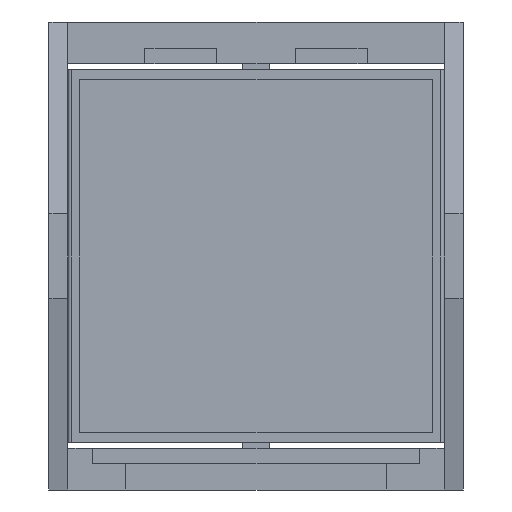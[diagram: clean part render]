
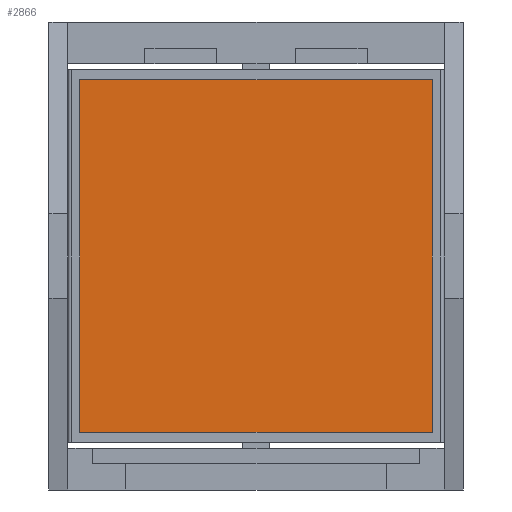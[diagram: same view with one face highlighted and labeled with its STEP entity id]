
A CAD part, front view. The second image highlights one B-rep face of the part: STEP entity #2866.
In plain terms, the highlighted planar face has unit normal (0, -1, 0).
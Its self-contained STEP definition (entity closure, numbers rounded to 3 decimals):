
#933 = DIRECTION ( 'NONE',  ( -1., 0., 0. ) ) ;
#1013 = DIRECTION ( 'NONE',  ( 0., 0., -1. ) ) ;
#1153 = CARTESIAN_POINT ( 'NONE',  ( -16.942, -2.335, 16.835 ) ) ;
#1394 = VERTEX_POINT ( 'NONE', #2444 ) ;
#1476 = ORIENTED_EDGE ( 'NONE', *, *, #5660, .F. ) ;
#1825 = VECTOR ( 'NONE', #3119, 1000. ) ;
#2012 = DIRECTION ( 'NONE',  ( 0., 1., 0. ) ) ;
#2080 = CARTESIAN_POINT ( 'NONE',  ( -16.942, -2.335, 16.835 ) ) ;
#2293 = VERTEX_POINT ( 'NONE', #2080 ) ;
#2444 = CARTESIAN_POINT ( 'NONE',  ( 10.058, -2.335, -10.165 ) ) ;
#2470 = LINE ( 'NONE', #3677, #4300 ) ;
#2573 = AXIS2_PLACEMENT_3D ( 'NONE', #5696, #2012, #4477 ) ;
#2866 = ADVANCED_FACE ( 'NONE', ( #5172 ), #6432, .F. ) ;
#3064 = CARTESIAN_POINT ( 'NONE',  ( -16.942, -2.335, -10.165 ) ) ;
#3119 = DIRECTION ( 'NONE',  ( 1., 0., 0. ) ) ;
#3363 = CARTESIAN_POINT ( 'NONE',  ( 10.058, -2.335, 16.835 ) ) ;
#3677 = CARTESIAN_POINT ( 'NONE',  ( -16.942, -2.335, -10.165 ) ) ;
#4300 = VECTOR ( 'NONE', #6027, 1000. ) ;
#4477 = DIRECTION ( 'NONE',  ( 0., 0., 1. ) ) ;
#4619 = CARTESIAN_POINT ( 'NONE',  ( -16.942, -2.335, -10.165 ) ) ;
#4743 = LINE ( 'NONE', #4619, #4972 ) ;
#4759 = ORIENTED_EDGE ( 'NONE', *, *, #7795, .F. ) ;
#4932 = ORIENTED_EDGE ( 'NONE', *, *, #5583, .F. ) ;
#4972 = VECTOR ( 'NONE', #933, 1000. ) ;
#5055 = ORIENTED_EDGE ( 'NONE', *, *, #7751, .F. ) ;
#5172 = FACE_OUTER_BOUND ( 'NONE', #7416, .T. ) ;
#5450 = VERTEX_POINT ( 'NONE', #3064 ) ;
#5583 = EDGE_CURVE ( 'NONE', #1394, #5450, #4743, .T. ) ;
#5660 = EDGE_CURVE ( 'NONE', #7012, #1394, #6008, .T. ) ;
#5696 = CARTESIAN_POINT ( 'NONE',  ( -16.942, -2.335, 16.835 ) ) ;
#6008 = LINE ( 'NONE', #7121, #6263 ) ;
#6027 = DIRECTION ( 'NONE',  ( 0., 0., 1. ) ) ;
#6263 = VECTOR ( 'NONE', #1013, 1000. ) ;
#6432 = PLANE ( 'NONE',  #2573 ) ;
#7012 = VERTEX_POINT ( 'NONE', #3363 ) ;
#7121 = CARTESIAN_POINT ( 'NONE',  ( 10.058, -2.335, -10.165 ) ) ;
#7398 = LINE ( 'NONE', #1153, #1825 ) ;
#7416 = EDGE_LOOP ( 'NONE', ( #4759, #4932, #1476, #5055 ) ) ;
#7751 = EDGE_CURVE ( 'NONE', #2293, #7012, #7398, .T. ) ;
#7795 = EDGE_CURVE ( 'NONE', #5450, #2293, #2470, .T. ) ;
